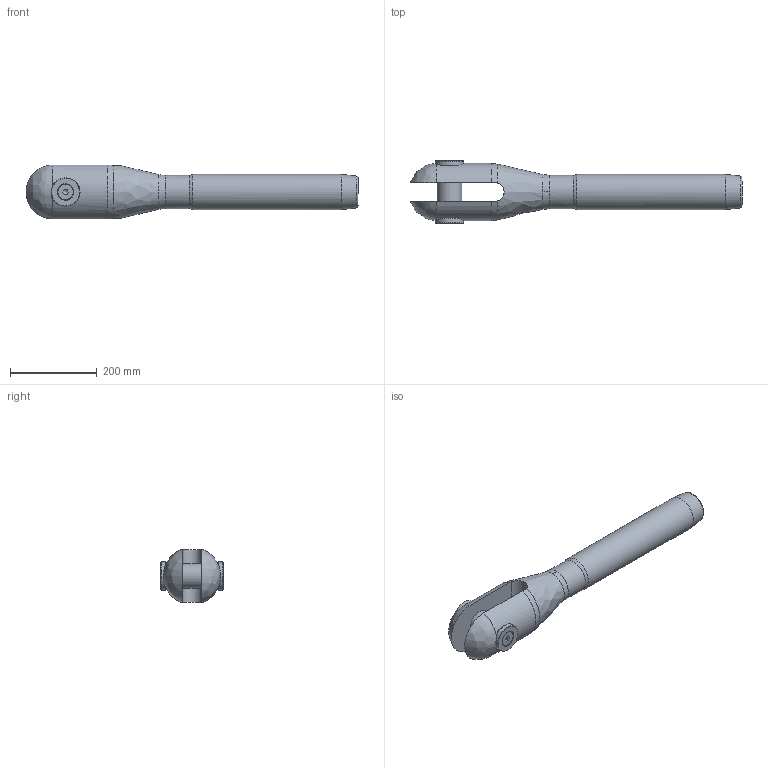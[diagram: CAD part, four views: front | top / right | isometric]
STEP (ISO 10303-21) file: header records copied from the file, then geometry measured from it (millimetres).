
FILE_DESCRIPTION(/* description */ (''),/* implementation_level */ '2;1');
FILE_NAME(/* name */ 'MAC 42_42CrMo4',/* time_stamp */ '2023-05-23T16:55:26+02:00',/* author */ (''),/* organization */ (''),/* preprocessor_version */ 'ST-DEVELOPER v16.5',/* originating_system */ 'Rhino 7.22',/* authorisation */ '');
FILE_SCHEMA (('CONFIG_CONTROL_DESIGN'));
Length unit declared in the file: millimetre
Products named in the file (1): Document
Bounding box: 766.22 x 143.57 x 124.45 mm (x, y, z)
Volume: 4747832.9 mm3; surface area: 331327.8 mm2
Topology: 6 solids, 6 shells, 75 faces, 210 edges, 145 vertices
Faces by surface type: plane 29, bspline 24, cylinder 22
Full cylindrical faces by diameter (mm): 17.294 x2, 20 x2, 21 x2, 35.4 x2, 57 x1, 58 x2, 65 x2, 77 x1, 81 x1
Entity records: 3170 total; most frequent: CARTESIAN_POINT 1823, ORIENTED_EDGE 412, EDGE_CURVE 206, VERTEX_POINT 145, EDGE_LOOP 85, B_SPLINE_CURVE_WITH_KNOTS 84, ADVANCED_FACE 75, FACE_OUTER_BOUND 75
